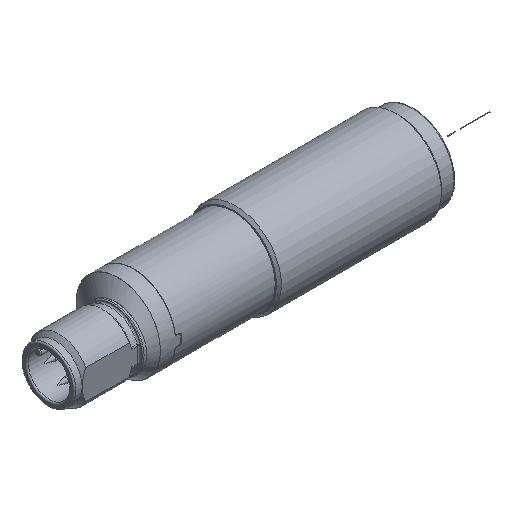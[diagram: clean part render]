
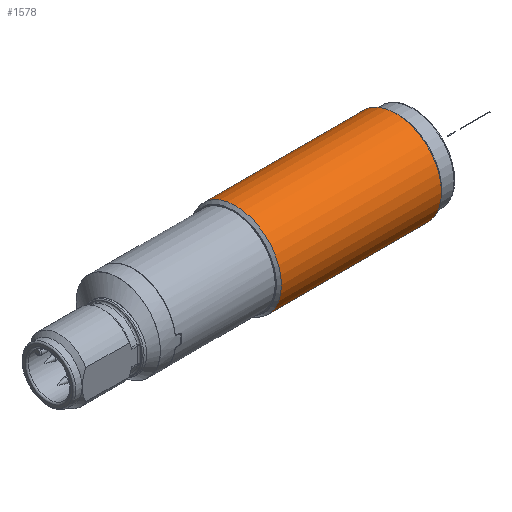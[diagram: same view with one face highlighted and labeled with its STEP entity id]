
A CAD part, isometric view. The second image highlights one B-rep face of the part: STEP entity #1578.
In plain terms, the highlighted cylindrical face has radius 9 mm (diameter 18 mm), a full revolution.
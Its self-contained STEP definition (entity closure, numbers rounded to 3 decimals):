
#50=FACE_BOUND('',#1768,.T.);
#51=FACE_BOUND('',#1769,.T.);
#189=CIRCLE('',#3049,9.);
#190=CIRCLE('',#3050,9.);
#278=CYLINDRICAL_SURFACE('',#3051,9.);
#1578=ADVANCED_FACE('',(#50,#51),#278,.T.);
#1768=EDGE_LOOP('',(#2009));
#1769=EDGE_LOOP('',(#2010));
#2009=ORIENTED_EDGE('',*,*,#2742,.T.);
#2010=ORIENTED_EDGE('',*,*,#2743,.T.);
#2379=VERTEX_POINT('',#4896);
#2380=VERTEX_POINT('',#4898);
#2742=EDGE_CURVE('',#2379,#2379,#189,.T.);
#2743=EDGE_CURVE('',#2380,#2380,#190,.T.);
#3049=AXIS2_PLACEMENT_3D('',#4895,#3351,#3352);
#3050=AXIS2_PLACEMENT_3D('',#4897,#3353,#3354);
#3051=AXIS2_PLACEMENT_3D('',#4899,#3355,#3356);
#3351=DIRECTION('',(1.,0.,0.));
#3352=DIRECTION('',(0.,0.,1.));
#3353=DIRECTION('',(-1.,0.,0.));
#3354=DIRECTION('',(0.,0.,1.));
#3355=DIRECTION('',(1.,0.,0.));
#3356=DIRECTION('',(0.,0.,-1.));
#4895=CARTESIAN_POINT('',(-4.545,88.595,-0.2));
#4896=CARTESIAN_POINT('',(-4.545,88.595,8.8));
#4897=CARTESIAN_POINT('',(26.955,88.595,-0.2));
#4898=CARTESIAN_POINT('',(26.955,88.595,8.8));
#4899=CARTESIAN_POINT('',(-5.045,88.595,-0.2));
